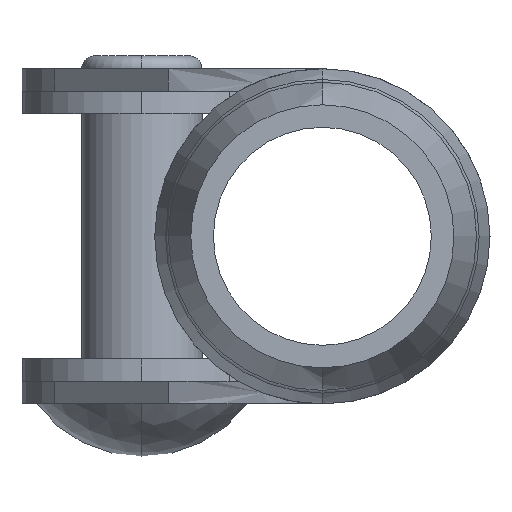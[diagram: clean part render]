
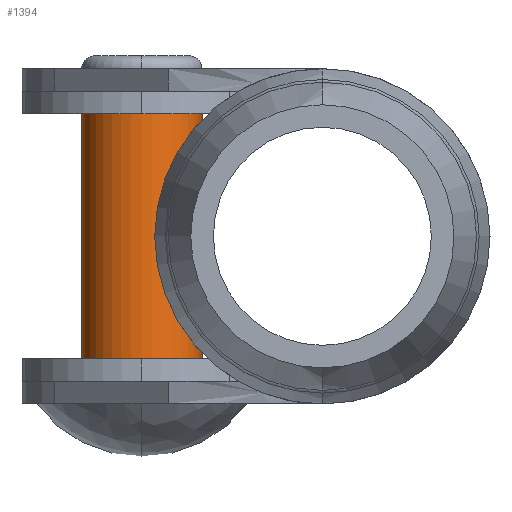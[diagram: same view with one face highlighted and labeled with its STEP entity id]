
A CAD part, left-side view. The second image highlights one B-rep face of the part: STEP entity #1394.
In plain terms, the highlighted cylindrical face has radius 4 mm (diameter 8 mm), a partial arc.
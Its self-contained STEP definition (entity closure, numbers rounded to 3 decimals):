
#1353=CARTESIAN_POINT('',(-10.615,12.0,0.0));
#1354=DIRECTION('',(1.0,0.0,0.0));
#1355=DIRECTION('',(0.0,-1.0,0.0));
#1356=AXIS2_PLACEMENT_3D('',#1353,#1354,#1355);
#1357=CYLINDRICAL_SURFACE('',#1356,4.);
#1358=CARTESIAN_POINT('',(9.65,8.,0.));
#1359=VERTEX_POINT('',#1358);
#1360=CARTESIAN_POINT('',(-9.65,8.,0.));
#1361=VERTEX_POINT('',#1360);
#1362=CARTESIAN_POINT('',(9.65,8.,0.));
#1363=DIRECTION('',(-1.0,0.0,0.0));
#1364=VECTOR('',#1363,19.3);
#1365=LINE('',#1362,#1364);
#1366=EDGE_CURVE('',#1359,#1361,#1365,.T.);
#1367=ORIENTED_EDGE('',*,*,#1366,.F.);
#1368=CARTESIAN_POINT('',(9.65,16.0,0.));
#1369=VERTEX_POINT('',#1368);
#1370=CARTESIAN_POINT('',(9.65,12.0,0.0));
#1371=DIRECTION('',(1.0,0.0,0.0));
#1372=DIRECTION('',(0.0,-1.0,0.0));
#1373=AXIS2_PLACEMENT_3D('',#1370,#1371,#1372);
#1374=CIRCLE('',#1373,4.);
#1375=EDGE_CURVE('',#1369,#1359,#1374,.T.);
#1376=ORIENTED_EDGE('',*,*,#1375,.F.);
#1377=CARTESIAN_POINT('',(-9.65,16.0,0.));
#1378=VERTEX_POINT('',#1377);
#1379=CARTESIAN_POINT('',(-9.65,16.0,0.));
#1380=DIRECTION('',(1.0,0.0,0.0));
#1381=VECTOR('',#1380,19.3);
#1382=LINE('',#1379,#1381);
#1383=EDGE_CURVE('',#1378,#1369,#1382,.T.);
#1384=ORIENTED_EDGE('',*,*,#1383,.F.);
#1385=CARTESIAN_POINT('',(-9.65,12.0,0.0));
#1386=DIRECTION('',(-1.0,0.0,0.0));
#1387=DIRECTION('',(0.0,-1.0,0.0));
#1388=AXIS2_PLACEMENT_3D('',#1385,#1386,#1387);
#1389=CIRCLE('',#1388,4.);
#1390=EDGE_CURVE('',#1361,#1378,#1389,.T.);
#1391=ORIENTED_EDGE('',*,*,#1390,.F.);
#1392=EDGE_LOOP('',(#1367,#1376,#1384,#1391));
#1393=FACE_OUTER_BOUND('',#1392,.T.);
#1394=ADVANCED_FACE('',(#1393),#1357,.T.);
